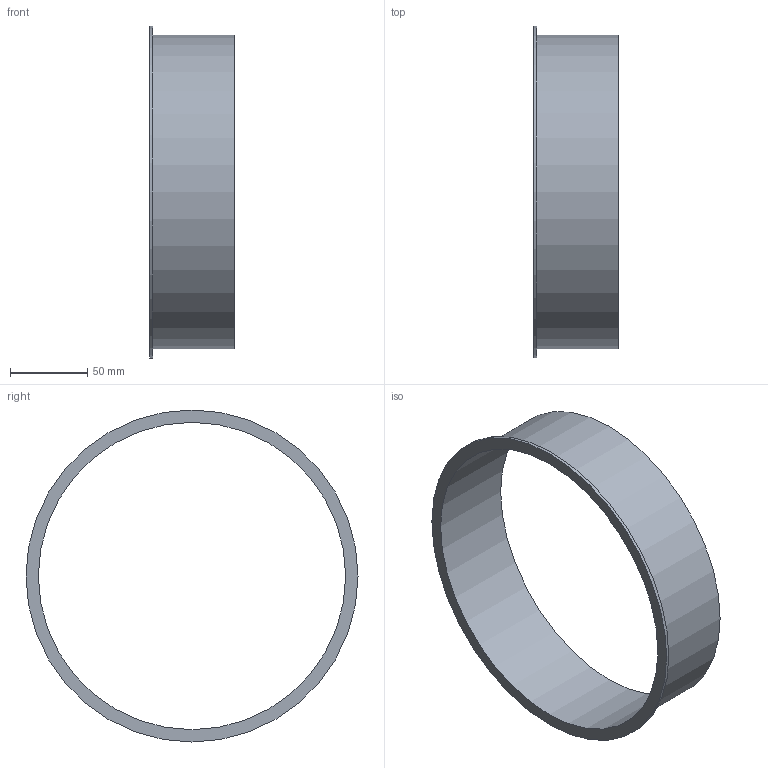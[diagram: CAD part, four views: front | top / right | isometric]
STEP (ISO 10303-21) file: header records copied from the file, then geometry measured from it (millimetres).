
FILE_DESCRIPTION((''),'2;1');
FILE_NAME('U:\Wolfgang\Marcel-3D\fertig\Kapitel 1\2021012.stp','2010-05-31T11:17:17',('TK2'),(''),'Autodesk Inventor 2010','Autodesk Inventor 2010','');
FILE_SCHEMA(('AUTOMOTIVE_DESIGN { 1 0 10303 214 1 1 1 1 }'));
Length unit declared in the file: millimetre
Products named in the file (1): 2021012
Bounding box: 55 x 215 x 215 mm (x, y, z)
Volume: 77339.7 mm3; surface area: 79941 mm2
Topology: 1 solids, 1 shells, 6 faces, 9 edges, 6 vertices
Faces by surface type: cylinder 3, plane 3
Full cylindrical faces by diameter (mm): 199 x1, 203 x1, 215 x1
Entity records: 154 total; most frequent: DIRECTION 26, CARTESIAN_POINT 19, AXIS2_PLACEMENT_3D 13, ORIENTED_EDGE 12, EDGE_LOOP 12, VERTEX_POINT 6, CIRCLE 6, EDGE_CURVE 6
